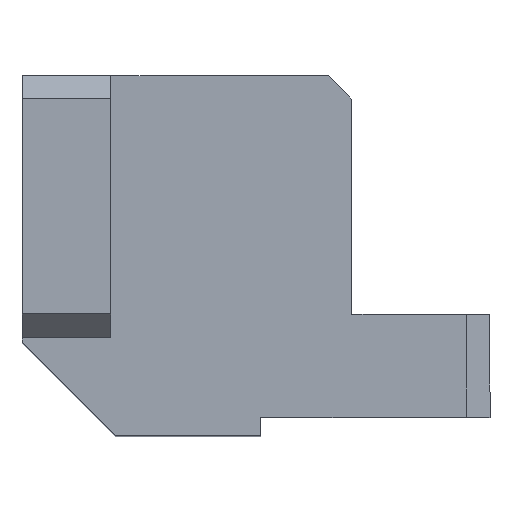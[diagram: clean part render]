
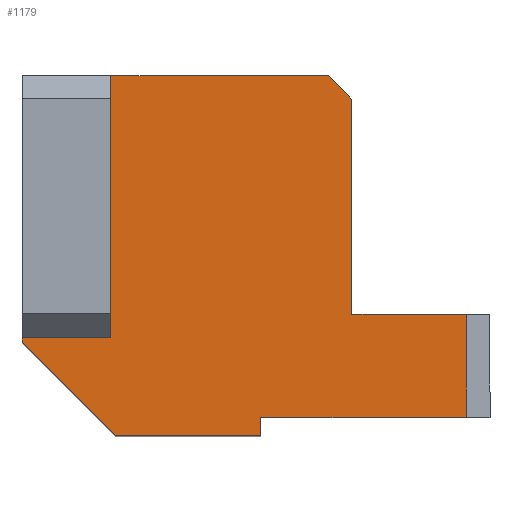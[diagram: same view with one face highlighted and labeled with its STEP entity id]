
A CAD part, top view. The second image highlights one B-rep face of the part: STEP entity #1179.
In plain terms, the highlighted planar face has unit normal (0, 0, 1).
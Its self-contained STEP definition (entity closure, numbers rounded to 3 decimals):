
#46 = ORIENTED_EDGE ( 'NONE', *, *, #72, .T. ) ;
#49 = VERTEX_POINT ( 'NONE', #982 ) ;
#51 = CARTESIAN_POINT ( 'NONE',  ( -15., -20.25, 20. ) ) ;
#52 = CARTESIAN_POINT ( 'NONE',  ( -25., -9.75, 20. ) ) ;
#55 = VERTEX_POINT ( 'NONE', #994 ) ;
#62 = ORIENTED_EDGE ( 'NONE', *, *, #1021, .F. ) ;
#63 = VERTEX_POINT ( 'NONE', #974 ) ;
#66 = DIRECTION ( 'NONE',  ( 0., -1., 0. ) ) ;
#72 = EDGE_CURVE ( 'NONE', #55, #313, #1010, .T. ) ;
#77 = LINE ( 'NONE', #751, #140 ) ;
#100 = VERTEX_POINT ( 'NONE', #1061 ) ;
#118 = VECTOR ( 'NONE', #811, 1000. ) ;
#134 = DIRECTION ( 'NONE',  ( 0., -1., 0. ) ) ;
#140 = VECTOR ( 'NONE', #508, 1000. ) ;
#162 = LINE ( 'NONE', #542, #566 ) ;
#164 = VERTEX_POINT ( 'NONE', #193 ) ;
#170 = ORIENTED_EDGE ( 'NONE', *, *, #750, .T. ) ;
#172 = CARTESIAN_POINT ( 'NONE',  ( -25., -20.25, 20. ) ) ;
#180 = EDGE_CURVE ( 'NONE', #237, #887, #1089, .T. ) ;
#183 = ORIENTED_EDGE ( 'NONE', *, *, #694, .T. ) ;
#193 = CARTESIAN_POINT ( 'NONE',  ( 22.5, -7.25, 20. ) ) ;
#200 = VERTEX_POINT ( 'NONE', #932 ) ;
#206 = LINE ( 'NONE', #1038, #1167 ) ;
#209 = ORIENTED_EDGE ( 'NONE', *, *, #1005, .F. ) ;
#212 = LINE ( 'NONE', #523, #759 ) ;
#222 = CARTESIAN_POINT ( 'NONE',  ( -25., 18.25, 20. ) ) ;
#234 = VECTOR ( 'NONE', #509, 1000. ) ;
#237 = VERTEX_POINT ( 'NONE', #389 ) ;
#274 = VERTEX_POINT ( 'NONE', #312 ) ;
#312 = CARTESIAN_POINT ( 'NONE',  ( 10.25, -7.25, 20. ) ) ;
#313 = VERTEX_POINT ( 'NONE', #440 ) ;
#339 = CARTESIAN_POINT ( 'NONE',  ( -15.5, 18.25, 20. ) ) ;
#341 = EDGE_LOOP ( 'NONE', ( #170, #406, #62, #832, #46, #1207, #1135, #209, #183, #852, #744, #1145 ) ) ;
#357 = VERTEX_POINT ( 'NONE', #52 ) ;
#389 = CARTESIAN_POINT ( 'NONE',  ( -25., -10.25, 20. ) ) ;
#406 = ORIENTED_EDGE ( 'NONE', *, *, #180, .T. ) ;
#413 = EDGE_CURVE ( 'NONE', #63, #55, #77, .T. ) ;
#432 = CARTESIAN_POINT ( 'NONE',  ( -15.5, -9.75, 20. ) ) ;
#440 = CARTESIAN_POINT ( 'NONE',  ( 22.5, -18.25, 20. ) ) ;
#458 = FACE_OUTER_BOUND ( 'NONE', #341, .T. ) ;
#460 = EDGE_CURVE ( 'NONE', #274, #164, #162, .T. ) ;
#488 = DIRECTION ( 'NONE',  ( 0.707, -0.707, 0. ) ) ;
#498 = LINE ( 'NONE', #596, #933 ) ;
#508 = DIRECTION ( 'NONE',  ( 0., 1., 0. ) ) ;
#509 = DIRECTION ( 'NONE',  ( -0.707, 0.707, 0. ) ) ;
#523 = CARTESIAN_POINT ( 'NONE',  ( -15.5, -9.75, 20. ) ) ;
#541 = DIRECTION ( 'NONE',  ( 1., 0., 0. ) ) ;
#542 = CARTESIAN_POINT ( 'NONE',  ( 25., -7.25, 20. ) ) ;
#543 = DIRECTION ( 'NONE',  ( -1., 0., 0. ) ) ;
#545 = LINE ( 'NONE', #172, #980 ) ;
#566 = VECTOR ( 'NONE', #1079, 1000. ) ;
#582 = VECTOR ( 'NONE', #488, 1000. ) ;
#596 = CARTESIAN_POINT ( 'NONE',  ( 10.25, 18.25, 20. ) ) ;
#650 = LINE ( 'NONE', #1221, #118 ) ;
#654 = CARTESIAN_POINT ( 'NONE',  ( 13., 13., 20. ) ) ;
#694 = EDGE_CURVE ( 'NONE', #200, #49, #1156, .T. ) ;
#704 = PLANE ( 'NONE',  #746 ) ;
#744 = ORIENTED_EDGE ( 'NONE', *, *, #793, .T. ) ;
#746 = AXIS2_PLACEMENT_3D ( 'NONE', #873, #1027, #541 ) ;
#750 = EDGE_CURVE ( 'NONE', #357, #237, #1214, .T. ) ;
#751 = CARTESIAN_POINT ( 'NONE',  ( 0.5, -20.25, 20. ) ) ;
#759 = VECTOR ( 'NONE', #543, 1000. ) ;
#793 = EDGE_CURVE ( 'NONE', #100, #805, #1244, .T. ) ;
#795 = DIRECTION ( 'NONE',  ( 0., -1., 0. ) ) ;
#805 = VERTEX_POINT ( 'NONE', #432 ) ;
#808 = DIRECTION ( 'NONE',  ( 0., 1., 0. ) ) ;
#811 = DIRECTION ( 'NONE',  ( -1., 0., 0. ) ) ;
#832 = ORIENTED_EDGE ( 'NONE', *, *, #413, .T. ) ;
#840 = CARTESIAN_POINT ( 'NONE',  ( -17.625, -17.625, 20. ) ) ;
#852 = ORIENTED_EDGE ( 'NONE', *, *, #867, .T. ) ;
#867 = EDGE_CURVE ( 'NONE', #49, #100, #650, .T. ) ;
#873 = CARTESIAN_POINT ( 'NONE',  ( 0., 0., 20. ) ) ;
#887 = VERTEX_POINT ( 'NONE', #51 ) ;
#917 = EDGE_CURVE ( 'NONE', #805, #357, #212, .T. ) ;
#921 = DIRECTION ( 'NONE',  ( -1., 0., 0. ) ) ;
#932 = CARTESIAN_POINT ( 'NONE',  ( 10.25, 15.75, 20. ) ) ;
#933 = VECTOR ( 'NONE', #134, 1000. ) ;
#935 = CARTESIAN_POINT ( 'NONE',  ( -25., -18.25, 20. ) ) ;
#974 = CARTESIAN_POINT ( 'NONE',  ( 0.5, -20.25, 20. ) ) ;
#980 = VECTOR ( 'NONE', #921, 1000. ) ;
#982 = CARTESIAN_POINT ( 'NONE',  ( 7.75, 18.25, 20. ) ) ;
#983 = VECTOR ( 'NONE', #795, 1000. ) ;
#994 = CARTESIAN_POINT ( 'NONE',  ( 0.5, -18.25, 20. ) ) ;
#1005 = EDGE_CURVE ( 'NONE', #200, #274, #498, .T. ) ;
#1009 = VECTOR ( 'NONE', #66, 1000. ) ;
#1010 = LINE ( 'NONE', #935, #1246 ) ;
#1016 = DIRECTION ( 'NONE',  ( 1., 0., 0. ) ) ;
#1021 = EDGE_CURVE ( 'NONE', #63, #887, #545, .T. ) ;
#1027 = DIRECTION ( 'NONE',  ( 0., 0., 1. ) ) ;
#1038 = CARTESIAN_POINT ( 'NONE',  ( 22.5, -7.25, 20. ) ) ;
#1061 = CARTESIAN_POINT ( 'NONE',  ( -15.5, 18.25, 20. ) ) ;
#1079 = DIRECTION ( 'NONE',  ( 1., 0., 0. ) ) ;
#1089 = LINE ( 'NONE', #840, #582 ) ;
#1135 = ORIENTED_EDGE ( 'NONE', *, *, #460, .F. ) ;
#1145 = ORIENTED_EDGE ( 'NONE', *, *, #917, .T. ) ;
#1156 = LINE ( 'NONE', #654, #234 ) ;
#1167 = VECTOR ( 'NONE', #808, 1000. ) ;
#1179 = ADVANCED_FACE ( 'NONE', ( #458 ), #704, .T. ) ;
#1207 = ORIENTED_EDGE ( 'NONE', *, *, #1234, .T. ) ;
#1214 = LINE ( 'NONE', #222, #983 ) ;
#1221 = CARTESIAN_POINT ( 'NONE',  ( -25., 18.25, 20. ) ) ;
#1234 = EDGE_CURVE ( 'NONE', #313, #164, #206, .T. ) ;
#1244 = LINE ( 'NONE', #339, #1009 ) ;
#1246 = VECTOR ( 'NONE', #1016, 1000. ) ;
